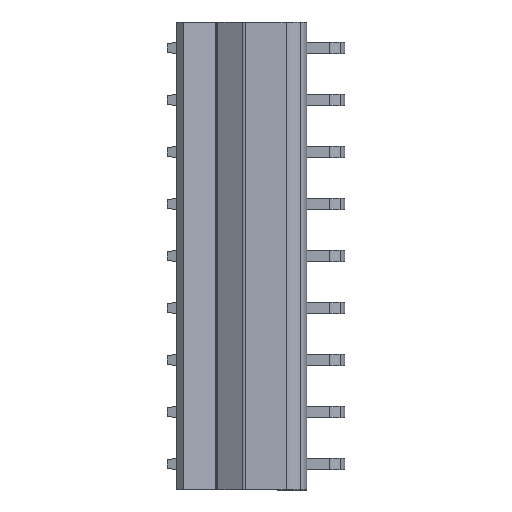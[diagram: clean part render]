
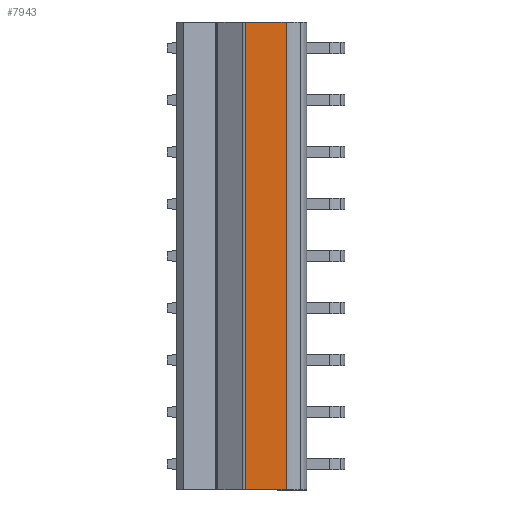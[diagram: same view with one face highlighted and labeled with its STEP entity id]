
A CAD part, left-side view. The second image highlights one B-rep face of the part: STEP entity #7943.
In plain terms, the highlighted planar face has unit normal (-1, 0, 0).
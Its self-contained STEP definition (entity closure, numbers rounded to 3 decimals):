
#378 = LINE ( 'NONE', #5615, #7552 ) ;
#408 = VECTOR ( 'NONE', #5521, 1000. ) ;
#582 = CARTESIAN_POINT ( 'NONE',  ( -7.84, -4.424, 27.888 ) ) ;
#735 = DIRECTION ( 'NONE',  ( 0., 0., -1. ) ) ;
#805 = EDGE_CURVE ( 'NONE', #4095, #1260, #378, .T. ) ;
#1114 = CARTESIAN_POINT ( 'NONE',  ( -7.84, 1.56, -12.672 ) ) ;
#1221 = DIRECTION ( 'NONE',  ( 0., -1., 0. ) ) ;
#1242 = VECTOR ( 'NONE', #7871, 1000. ) ;
#1260 = VERTEX_POINT ( 'NONE', #5694 ) ;
#1332 = LINE ( 'NONE', #5926, #3227 ) ;
#2265 = DIRECTION ( 'NONE',  ( 0., -1., 0. ) ) ;
#2313 = ORIENTED_EDGE ( 'NONE', *, *, #5993, .F. ) ;
#2567 = ORIENTED_EDGE ( 'NONE', *, *, #5498, .F. ) ;
#2896 = CARTESIAN_POINT ( 'NONE',  ( -7.84, -2.424, 12.648 ) ) ;
#2974 = AXIS2_PLACEMENT_3D ( 'NONE', #582, #4961, #1221 ) ;
#3227 = VECTOR ( 'NONE', #735, 1000. ) ;
#3279 = VERTEX_POINT ( 'NONE', #4444 ) ;
#3456 = EDGE_LOOP ( 'NONE', ( #4785, #5488, #2313, #2567 ) ) ;
#3542 = LINE ( 'NONE', #2896, #408 ) ;
#3772 = PLANE ( 'NONE',  #2974 ) ;
#4095 = VERTEX_POINT ( 'NONE', #1114 ) ;
#4444 = CARTESIAN_POINT ( 'NONE',  ( -7.84, 1.56, 33.048 ) ) ;
#4785 = ORIENTED_EDGE ( 'NONE', *, *, #6694, .T. ) ;
#4961 = DIRECTION ( 'NONE',  ( 1., 0., 0. ) ) ;
#5267 = VERTEX_POINT ( 'NONE', #5830 ) ;
#5488 = ORIENTED_EDGE ( 'NONE', *, *, #805, .T. ) ;
#5498 = EDGE_CURVE ( 'NONE', #3279, #5267, #7308, .T. ) ;
#5521 = DIRECTION ( 'NONE',  ( 0., 0., -1. ) ) ;
#5615 = CARTESIAN_POINT ( 'NONE',  ( -7.84, -4.424, -12.672 ) ) ;
#5694 = CARTESIAN_POINT ( 'NONE',  ( -7.84, -2.424, -12.672 ) ) ;
#5830 = CARTESIAN_POINT ( 'NONE',  ( -7.84, -2.424, 33.048 ) ) ;
#5926 = CARTESIAN_POINT ( 'NONE',  ( -7.84, 1.56, 12.648 ) ) ;
#5993 = EDGE_CURVE ( 'NONE', #5267, #1260, #3542, .T. ) ;
#6330 = FACE_OUTER_BOUND ( 'NONE', #3456, .T. ) ;
#6669 = CARTESIAN_POINT ( 'NONE',  ( -7.84, -4.424, 33.048 ) ) ;
#6694 = EDGE_CURVE ( 'NONE', #3279, #4095, #1332, .T. ) ;
#7308 = LINE ( 'NONE', #6669, #1242 ) ;
#7552 = VECTOR ( 'NONE', #2265, 1000. ) ;
#7871 = DIRECTION ( 'NONE',  ( 0., -1., 0. ) ) ;
#7943 = ADVANCED_FACE ( 'NONE', ( #6330 ), #3772, .F. ) ;
